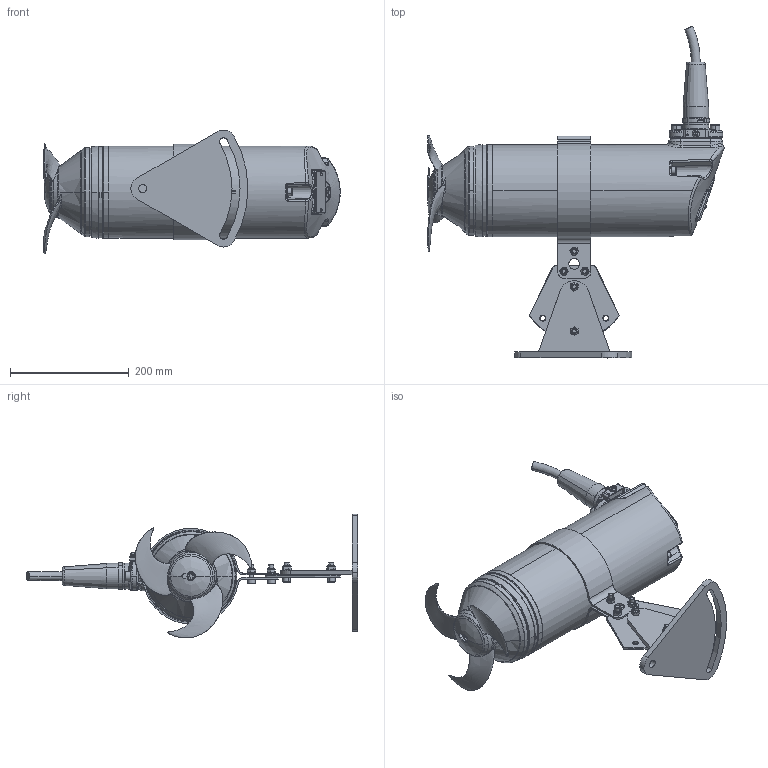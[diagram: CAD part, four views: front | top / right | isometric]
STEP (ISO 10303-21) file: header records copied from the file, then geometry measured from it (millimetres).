
FILE_DESCRIPTION (( 'STEP AP214' ), '1' );
FILE_NAME ('ANM14209[FILL W GUIDE].STEP', '2017-09-05T16:18:59', ( '' ), ( '' ), 'SwSTEP 2.0', 'SolidWorks 2017', '' );
FILE_SCHEMA (( 'AUTOMOTIVE_DESIGN' ));
Length unit declared in the file: inch
Products named in the file (1): ANM14209[FILL W GUIDE]
Bounding box: 498.87 x 558.51 x 208.62 mm (x, y, z)
Volume: 8767363.1 mm3; surface area: 428428.8 mm2
Topology: 1 solids, 16 shells, 1768 faces, 4260 edges, 2515 vertices
Faces by surface type: cylinder 597, plane 558, bspline 390, torus 171, cone 34, sphere 18
Entity records: 97102 total; most frequent: CARTESIAN_POINT 36502, ORIENTED_EDGE 8336, DIRECTION 7448, EDGE_CURVE 4168, AXIS2_PLACEMENT_3D 2864, VERTEX_POINT 2507, EDGE_LOOP 1913, FACE_OUTER_BOUND 1768
